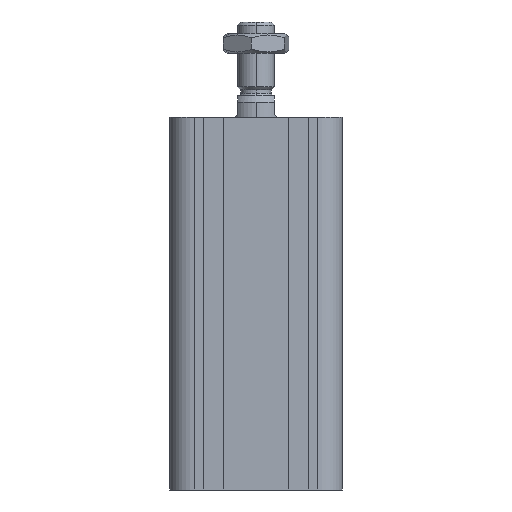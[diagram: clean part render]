
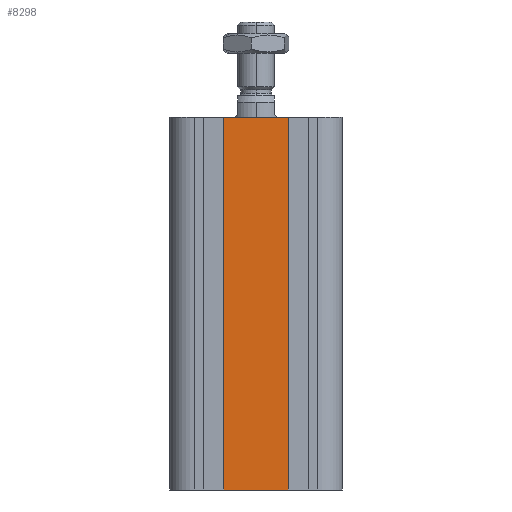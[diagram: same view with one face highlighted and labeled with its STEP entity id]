
A CAD part, front view. The second image highlights one B-rep face of the part: STEP entity #8298.
In plain terms, the highlighted planar face has unit normal (0, -1, 0).
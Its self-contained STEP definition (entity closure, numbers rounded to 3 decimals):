
#237 = LINE ( 'NONE', #1762, #17351 ) ;
#1389 = VERTEX_POINT ( 'NONE', #4279 ) ;
#1762 = CARTESIAN_POINT ( 'NONE',  ( 6., -10.5, -60.5 ) ) ;
#2785 = CARTESIAN_POINT ( 'NONE',  ( -6., -10.5, 0. ) ) ;
#2788 = ORIENTED_EDGE ( 'NONE', *, *, #15475, .F. ) ;
#2949 = ORIENTED_EDGE ( 'NONE', *, *, #11566, .T. ) ;
#3249 = VECTOR ( 'NONE', #6945, 1000. ) ;
#3584 = VERTEX_POINT ( 'NONE', #4922 ) ;
#3900 = VERTEX_POINT ( 'NONE', #11902 ) ;
#4008 = LINE ( 'NONE', #14987, #3249 ) ;
#4058 = CARTESIAN_POINT ( 'NONE',  ( -6., -10.5, -40.5 ) ) ;
#4279 = CARTESIAN_POINT ( 'NONE',  ( 6., -10.5, -60.5 ) ) ;
#4394 = LINE ( 'NONE', #13568, #21514 ) ;
#4922 = CARTESIAN_POINT ( 'NONE',  ( -6., -10.5, -60.5 ) ) ;
#5029 = AXIS2_PLACEMENT_3D ( 'NONE', #4058, #17195, #15671 ) ;
#6945 = DIRECTION ( 'NONE',  ( -1., 0., 0. ) ) ;
#6963 = EDGE_LOOP ( 'NONE', ( #21080, #2788, #8621, #2949 ) ) ;
#8298 = ADVANCED_FACE ( 'NONE', ( #17982 ), #8998, .F. ) ;
#8368 = DIRECTION ( 'NONE',  ( -1., 0., 0. ) ) ;
#8621 = ORIENTED_EDGE ( 'NONE', *, *, #18822, .F. ) ;
#8998 = PLANE ( 'NONE',  #5029 ) ;
#10288 = VERTEX_POINT ( 'NONE', #2785 ) ;
#11566 = EDGE_CURVE ( 'NONE', #3900, #10288, #4008, .T. ) ;
#11902 = CARTESIAN_POINT ( 'NONE',  ( 6., -10.5, 0. ) ) ;
#13568 = CARTESIAN_POINT ( 'NONE',  ( -6., -10.5, -40.5 ) ) ;
#14307 = LINE ( 'NONE', #14839, #20008 ) ;
#14839 = CARTESIAN_POINT ( 'NONE',  ( 6., -10.5, -40.5 ) ) ;
#14987 = CARTESIAN_POINT ( 'NONE',  ( -7.415, -10.5, 0. ) ) ;
#15061 = EDGE_CURVE ( 'NONE', #10288, #3584, #4394, .T. ) ;
#15475 = EDGE_CURVE ( 'NONE', #1389, #3584, #237, .T. ) ;
#15671 = DIRECTION ( 'NONE',  ( 0., 0., 1. ) ) ;
#17195 = DIRECTION ( 'NONE',  ( 0., 1., 0. ) ) ;
#17351 = VECTOR ( 'NONE', #8368, 1000. ) ;
#17982 = FACE_OUTER_BOUND ( 'NONE', #6963, .T. ) ;
#18022 = DIRECTION ( 'NONE',  ( 0., 0., -1. ) ) ;
#18822 = EDGE_CURVE ( 'NONE', #3900, #1389, #14307, .T. ) ;
#20005 = DIRECTION ( 'NONE',  ( 0., 0., -1. ) ) ;
#20008 = VECTOR ( 'NONE', #18022, 1000. ) ;
#21080 = ORIENTED_EDGE ( 'NONE', *, *, #15061, .T. ) ;
#21514 = VECTOR ( 'NONE', #20005, 1000. ) ;
